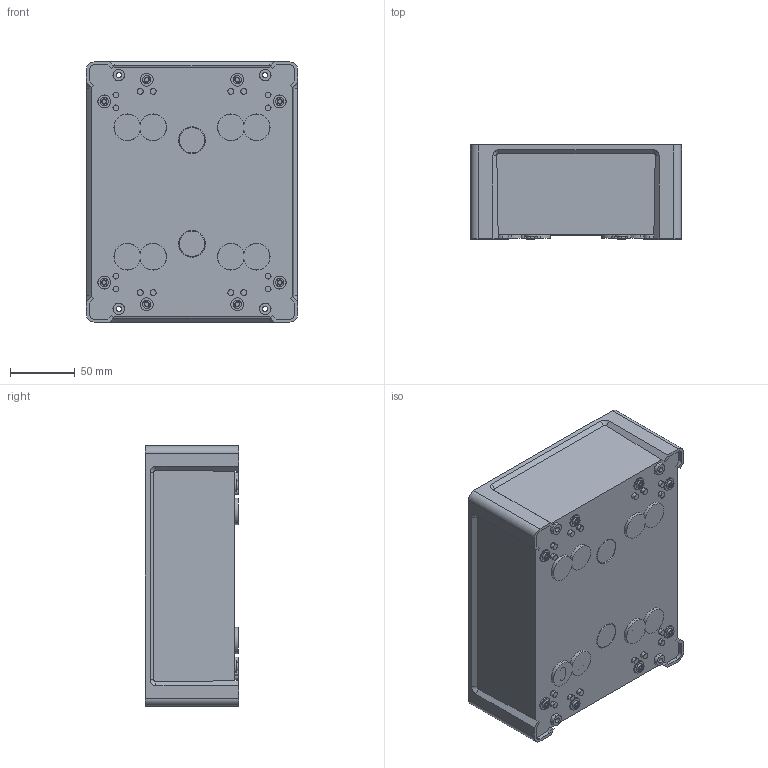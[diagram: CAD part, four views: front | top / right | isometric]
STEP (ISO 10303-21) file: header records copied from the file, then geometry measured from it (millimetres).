
FILE_DESCRIPTION (( 'STEP AP214' ), '1' );
FILE_NAME ('FIBOX TEMPO 2016 Base.STEP', '2006-11-28T14:16:15', ( 'JuhaniH' ), ( 'Fibox Oy' ), 'SwSTEP 2.0', 'SolidWorks 2006233', '' );
FILE_SCHEMA (( 'AUTOMOTIVE_DESIGN' ));
Length unit declared in the file: millimetre
Products named in the file (1): FIBOX TEMPO 2016 Base
Bounding box: 163.2 x 72.4 x 201.2 mm (x, y, z)
Volume: 328290.3 mm3; surface area: 188120.9 mm2
Topology: 1 solids, 1 shells, 782 faces, 1822 edges, 1200 vertices
Faces by surface type: cone 410, plane 340, cylinder 32
Entity records: 22851 total; most frequent: DIRECTION 4158, CARTESIAN_POINT 4097, ORIENTED_EDGE 3644, EDGE_CURVE 1822, AXIS2_PLACEMENT_3D 1637, VERTEX_POINT 1200, EDGE_LOOP 948, LINE 884
